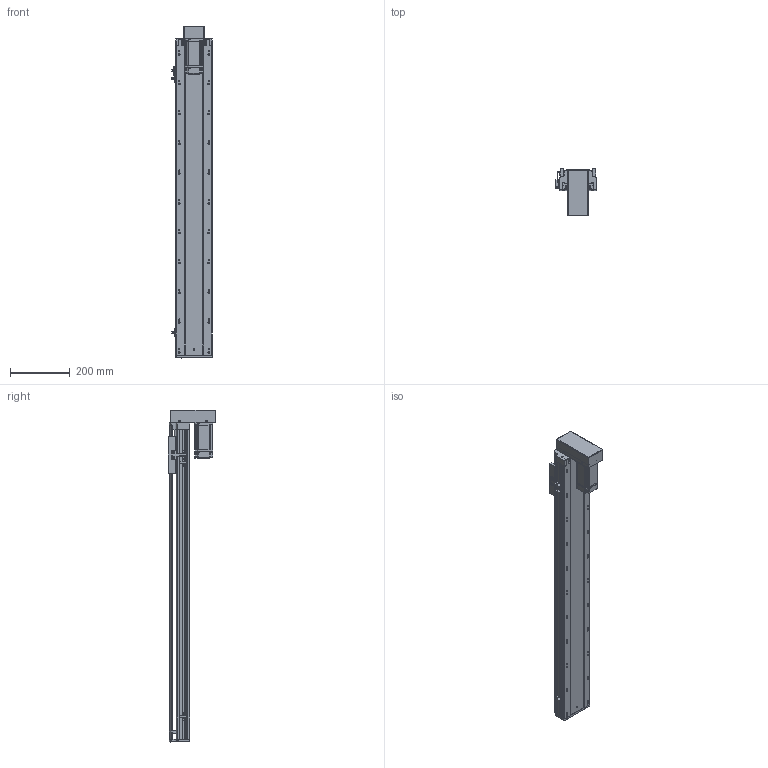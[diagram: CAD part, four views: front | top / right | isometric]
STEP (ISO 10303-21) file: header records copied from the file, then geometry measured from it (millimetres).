
FILE_DESCRIPTION (( 'STEP AP203' ), '1' );
FILE_NAME ('RY120-L2020-300-BK.SLDASM_850.step', '2021-03-12T06:58:12', ( '盈信电脑' ), ( '东莞市道滘镇水果街19号' ), 'SwSTEP 2.0', 'SolidWorks 2012', '' );
FILE_SCHEMA (( 'CONFIG_CONTROL_DESIGN' ));
Length unit declared in the file: millimetre
Products named in the file (15): RY120-L2020-300-BK.SLDASM_850; RY120下折折电机安装板; 侂狟400W侜督萇儂; RY120狟殏萇儂欶; RY120-400W萇儂傷-BK; RY120外置感应片(140共用）; RY120转拆电端丝杆支撑座(20丝杆，7002轴承); 15; 滅袉蝶18-24; 滅袉蝶18-10; 覜茼ん672; RY120綴裔啣; RY120臏賑輸(20蹟譫); RY120-300-BK蛌殏倰第奻裔啣_850; RY120-300-BK蛌殏倰第菁釱_850
Assembly tree (17 placements, depth 4):
  RY120-L2020-300-BK.SLDASM_850
    RY120-300-BK蛌殏倰第菁釱_850
    RY120-300-BK蛌殏倰第奻裔啣_850
    RY120臏賑輸(20蹟譫)
    RY120綴裔啣
    覜茼ん672  x3
    滅袉蝶18-10
    滅袉蝶18-24  x2
    RY120外置感应片(140共用）
    RY120转拆电端丝杆支撑座(20丝杆，7002轴承)
    RY120-400W萇儂傷-BK
      侂狟400W侜督萇儂
        15
      RY120狟殏萇儂欶
      RY120下折折电机安装板
Bounding box: 135.7 x 159.5 x 1114 mm (x, y, z)
Volume: 3172712.2 mm3; surface area: 1168311.3 mm2
Topology: 16 solids, 16 shells, 2616 faces, 7243 edges, 4644 vertices
Faces by surface type: plane 1256, cylinder 1024, cone 231, bspline 105
Entity records: 88279 total; most frequent: CARTESIAN_POINT 25647, ORIENTED_EDGE 13174, DIRECTION 11999, EDGE_CURVE 6587, VERTEX_POINT 4312, AXIS2_PLACEMENT_3D 4021, LINE 3957, VECTOR 3957
